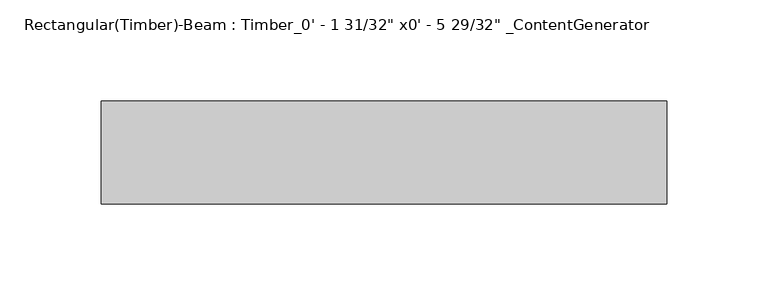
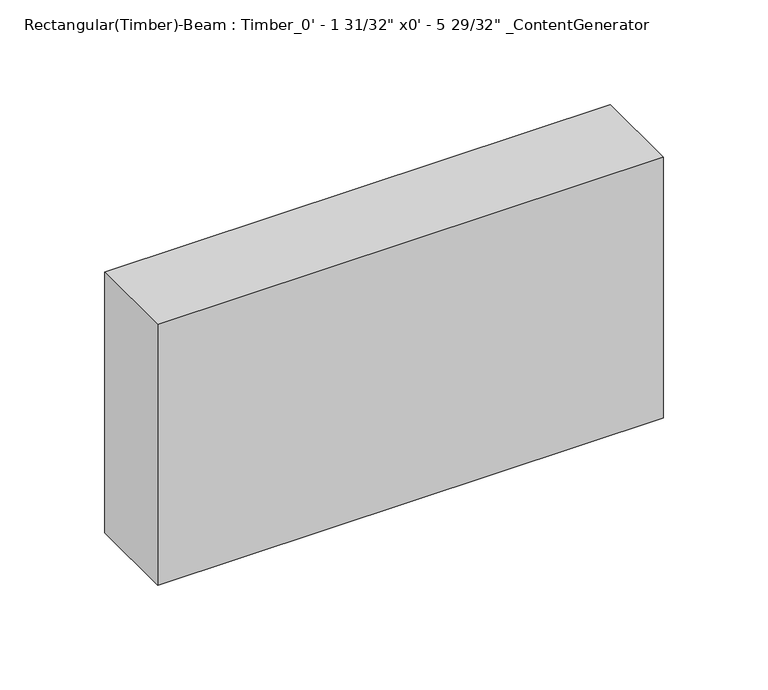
"""IFC4 building model written with IfcOpenShell, lengths in millimetres: beam geometry."""

from ifc_helpers import new_model, si_unit, frame, origin, place, context, project, spatial, polyline, outline, extrude, source, transform, mapped, element, save


def beam_be169553(model_context):
    return source(origin(), model_context, "Body", "SweptSolid", [
        extrude(outline(polyline([(139.69, 25.4), (139.69, -25.4), (-139.69, -25.4), (-139.69, 25.4), (139.69, 25.4)])), frame((0.0, 0.0, -76.2), z_axis=(0.0, 0.0, 1.0), x_axis=(1.0, 0.0, 0.0)), (0.0, 0.0, 1.0), 152.4),
    ])


if __name__ == "__main__":
    model = new_model("IFC4")
    model_context = context("Model", 3, world=origin())
    ifc_project = project(units=[si_unit("LENGTHUNIT", "METRE", prefix="MILLI")], contexts=[model_context])
    site = spatial("IfcSite", under=ifc_project)
    building = spatial("IfcBuilding", under=site)
    placement = place(None, origin())
    beam_shape = beam_be169553(model_context)
    element("IfcBeam", 1, ObjectType="Rectangular(Timber)-Beam : Timber_0' - 1 31/32\" x0' - 5 29/32\" _ContentGenerator", at=placement, inside=building, context=model_context, shape_type="MappedRepresentation", body=[
        mapped(beam_shape, transform((0.0, 0.0, 0.0), x_axis=(1.0, 0.0, 0.0), y_axis=(0.0, 1.0, 0.0), z_axis=(0.0, 0.0, 1.0))),
    ])
    save(model, "model.ifc")
